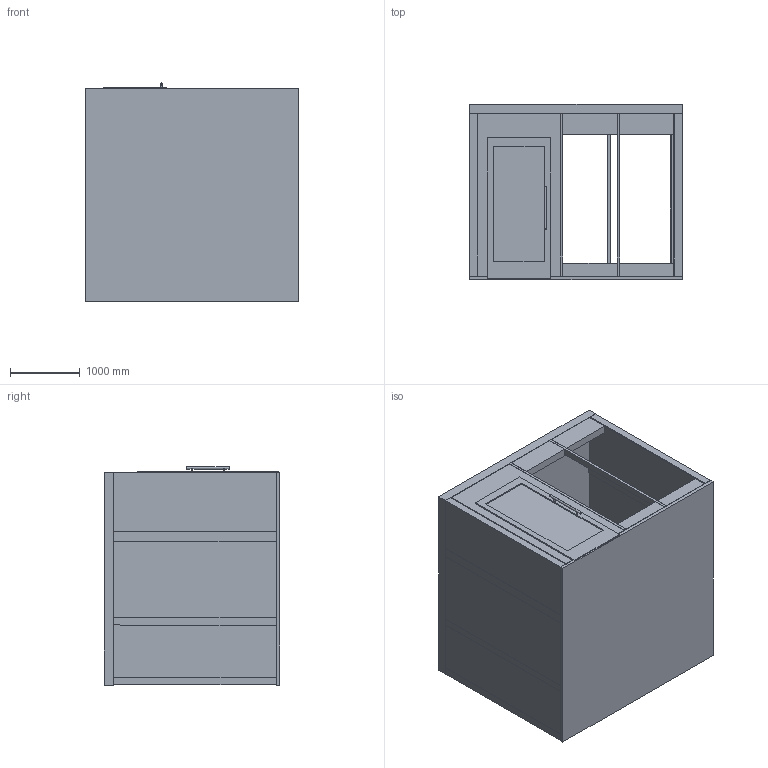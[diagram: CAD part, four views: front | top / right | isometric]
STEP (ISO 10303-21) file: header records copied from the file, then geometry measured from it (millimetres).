
FILE_DESCRIPTION(/* description */ (''),/* implementation_level */ '2;1');
FILE_NAME(/* name */ 'C:\Users\CLy\Desktop\DESKTOP\ZONEZ STEP\FZM-W.stp',/* time_stamp */ '2021-03-12T17:00:40-08:00',/* author */ ('CLy'),/* organization */ (''),/* preprocessor_version */ 'ST-DEVELOPER v18',/* originating_system */ 'Autodesk Inventor 2020',/* authorisation */ '');
FILE_SCHEMA (('AUTOMOTIVE_DESIGN { 1 0 10303 214 3 1 1 }'));
Length unit declared in the file: inch
Products named in the file (1): FZM-W (Ketiv reference 1)
Bounding box: 3048.31 x 2519.11 x 3129.48 mm (x, y, z)
Volume: 3987392056.2 mm3; surface area: 80107346.5 mm2
Topology: 1 solids, 1 shells, 153 faces, 471 edges, 314 vertices
Faces by surface type: plane 144, torus 4, cylinder 3, bspline 2
Full cylindrical faces by diameter (mm): 25.4 x2, 31.75 x1
Entity records: 6003 total; most frequent: CARTESIAN_POINT 1642, ORIENTED_EDGE 942, DIRECTION 787, EDGE_CURVE 471, LINE 447, VECTOR 447, VERTEX_POINT 314, AXIS2_PLACEMENT_3D 170
